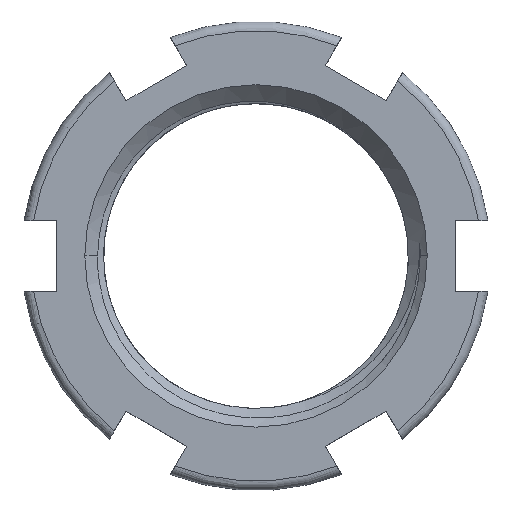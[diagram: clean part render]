
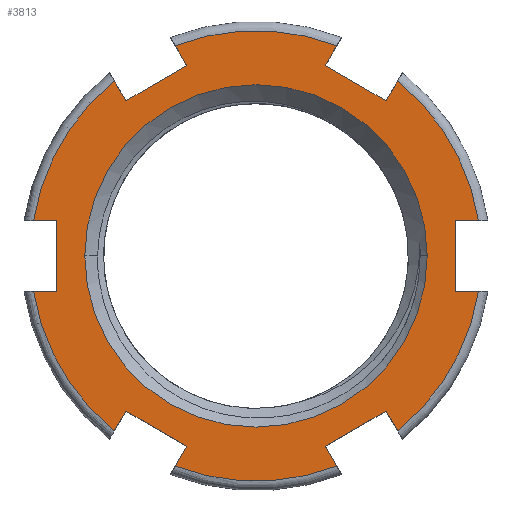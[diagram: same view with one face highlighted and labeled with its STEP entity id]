
A CAD part, top view. The second image highlights one B-rep face of the part: STEP entity #3813.
In plain terms, the highlighted planar face has unit normal (0, 0, 1).
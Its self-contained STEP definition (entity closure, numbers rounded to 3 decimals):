
#1108=CARTESIAN_POINT('',(0.,0.,1.25));
#1109=DIRECTION('',(0.,0.,-1.));
#1110=DIRECTION('',(-1.,0.,0.));
#1111=AXIS2_PLACEMENT_3D('',#1108,#1109,#1110);
#1259=CARTESIAN_POINT('',(0.,0.,1.25));
#1260=DIRECTION('',(0.,0.,-1.));
#1261=DIRECTION('',(1.,0.,0.));
#1262=AXIS2_PLACEMENT_3D('',#1259,#1260,#1261);
#1267=DIRECTION('',(-1.,0.,0.));
#1268=VECTOR('',#1267,0.491);
#1269=CARTESIAN_POINT('',(4.741,0.75,1.25));
#1270=LINE('',#1269,#1268);
#1274=DIRECTION('',(0.,-1.,0.));
#1275=VECTOR('',#1274,1.5);
#1276=CARTESIAN_POINT('',(4.25,0.75,1.25));
#1277=LINE('',#1276,#1275);
#1281=DIRECTION('',(-1.,0.,0.));
#1282=VECTOR('',#1281,0.491);
#1283=CARTESIAN_POINT('',(4.741,-0.75,1.25));
#1284=LINE('',#1283,#1282);
#1288=DIRECTION('',(-0.5,0.866,0.));
#1289=VECTOR('',#1288,0.491);
#1290=CARTESIAN_POINT('',(3.02,-3.731,1.25));
#1291=LINE('',#1290,#1289);
#1295=DIRECTION('',(-0.866,-0.5,0.));
#1296=VECTOR('',#1295,1.5);
#1297=CARTESIAN_POINT('',(2.775,-3.306,1.25));
#1298=LINE('',#1297,#1296);
#1302=DIRECTION('',(0.5,-0.866,0.));
#1303=VECTOR('',#1302,0.491);
#1304=CARTESIAN_POINT('',(1.475,-4.056,1.25));
#1305=LINE('',#1304,#1303);
#1309=DIRECTION('',(0.5,0.866,0.));
#1310=VECTOR('',#1309,0.491);
#1311=CARTESIAN_POINT('',(-1.721,-4.481,1.25));
#1312=LINE('',#1311,#1310);
#1316=DIRECTION('',(-0.866,0.5,0.));
#1317=VECTOR('',#1316,1.5);
#1318=CARTESIAN_POINT('',(-1.475,-4.056,1.25));
#1319=LINE('',#1318,#1317);
#1323=DIRECTION('',(-0.5,-0.866,0.));
#1324=VECTOR('',#1323,0.491);
#1325=CARTESIAN_POINT('',(-2.775,-3.306,1.25));
#1326=LINE('',#1325,#1324);
#1330=DIRECTION('',(1.,0.,0.));
#1331=VECTOR('',#1330,0.491);
#1332=CARTESIAN_POINT('',(-4.741,-0.75,1.25));
#1333=LINE('',#1332,#1331);
#1337=DIRECTION('',(0.,1.,0.));
#1338=VECTOR('',#1337,1.5);
#1339=CARTESIAN_POINT('',(-4.25,-0.75,1.25));
#1340=LINE('',#1339,#1338);
#1344=DIRECTION('',(1.,0.,0.));
#1345=VECTOR('',#1344,0.491);
#1346=CARTESIAN_POINT('',(-4.741,0.75,1.25));
#1347=LINE('',#1346,#1345);
#1351=DIRECTION('',(0.5,-0.866,0.));
#1352=VECTOR('',#1351,0.491);
#1353=CARTESIAN_POINT('',(-3.02,3.731,1.25));
#1354=LINE('',#1353,#1352);
#1358=DIRECTION('',(0.866,0.5,0.));
#1359=VECTOR('',#1358,1.5);
#1360=CARTESIAN_POINT('',(-2.775,3.306,1.25));
#1361=LINE('',#1360,#1359);
#1365=DIRECTION('',(-0.5,0.866,0.));
#1366=VECTOR('',#1365,0.491);
#1367=CARTESIAN_POINT('',(-1.475,4.056,1.25));
#1368=LINE('',#1367,#1366);
#1372=DIRECTION('',(-0.5,-0.866,0.));
#1373=VECTOR('',#1372,0.491);
#1374=CARTESIAN_POINT('',(1.721,4.481,1.25));
#1375=LINE('',#1374,#1373);
#1379=DIRECTION('',(0.866,-0.5,0.));
#1380=VECTOR('',#1379,1.5);
#1381=CARTESIAN_POINT('',(1.475,4.056,1.25));
#1382=LINE('',#1381,#1380);
#1386=DIRECTION('',(0.5,0.866,0.));
#1387=VECTOR('',#1386,0.491);
#1388=CARTESIAN_POINT('',(2.775,3.306,1.25));
#1389=LINE('',#1388,#1387);
#1744=CARTESIAN_POINT('',(0.,0.,1.25));
#1745=DIRECTION('',(0.,0.,1.));
#1746=DIRECTION('',(0.359,0.934,0.));
#1747=AXIS2_PLACEMENT_3D('',#1744,#1745,#1746);
#1786=CARTESIAN_POINT('',(0.,0.,1.25));
#1787=DIRECTION('',(0.,0.,1.));
#1788=DIRECTION('',(-0.629,0.777,0.));
#1789=AXIS2_PLACEMENT_3D('',#1786,#1787,#1788);
#1828=CARTESIAN_POINT('',(0.,0.,1.25));
#1829=DIRECTION('',(0.,0.,1.));
#1830=DIRECTION('',(-0.988,-0.156,0.));
#1831=AXIS2_PLACEMENT_3D('',#1828,#1829,#1830);
#1870=CARTESIAN_POINT('',(0.,0.,1.25));
#1871=DIRECTION('',(0.,0.,1.));
#1872=DIRECTION('',(-0.359,-0.934,0.));
#1873=AXIS2_PLACEMENT_3D('',#1870,#1871,#1872);
#1891=CARTESIAN_POINT('',(0.,0.,1.25));
#1892=DIRECTION('',(0.,0.,1.));
#1893=DIRECTION('',(0.988,0.156,0.));
#1894=AXIS2_PLACEMENT_3D('',#1891,#1892,#1893);
#1954=CARTESIAN_POINT('',(0.,0.,1.25));
#1955=DIRECTION('',(0.,0.,1.));
#1956=DIRECTION('',(0.629,-0.777,0.));
#1957=AXIS2_PLACEMENT_3D('',#1954,#1955,#1956);
#2389=CARTESIAN_POINT('',(1.721,4.481,1.25));
#2390=CARTESIAN_POINT('',(1.475,4.056,1.25));
#2391=VERTEX_POINT('',#2389);
#2392=VERTEX_POINT('',#2390);
#2393=CARTESIAN_POINT('',(2.775,3.306,1.25));
#2394=VERTEX_POINT('',#2393);
#2395=CARTESIAN_POINT('',(3.02,3.731,1.25));
#2396=VERTEX_POINT('',#2395);
#2413=CARTESIAN_POINT('',(3.65,0.,1.25));
#2414=CARTESIAN_POINT('',(-3.65,0.,1.25));
#2415=VERTEX_POINT('',#2413);
#2416=VERTEX_POINT('',#2414);
#2433=CARTESIAN_POINT('',(-3.02,3.731,1.25));
#2434=CARTESIAN_POINT('',(-2.775,3.306,1.25));
#2435=VERTEX_POINT('',#2433);
#2436=VERTEX_POINT('',#2434);
#2437=CARTESIAN_POINT('',(-1.475,4.056,1.25));
#2438=VERTEX_POINT('',#2437);
#2439=CARTESIAN_POINT('',(-1.721,4.481,1.25));
#2440=VERTEX_POINT('',#2439);
#2461=CARTESIAN_POINT('',(-4.741,-0.75,1.25));
#2462=CARTESIAN_POINT('',(-4.25,-0.75,1.25));
#2463=VERTEX_POINT('',#2461);
#2464=VERTEX_POINT('',#2462);
#2465=CARTESIAN_POINT('',(-4.25,0.75,1.25));
#2466=VERTEX_POINT('',#2465);
#2467=CARTESIAN_POINT('',(-4.741,0.75,1.25));
#2468=VERTEX_POINT('',#2467);
#2489=CARTESIAN_POINT('',(-1.721,-4.481,1.25));
#2490=CARTESIAN_POINT('',(-1.475,-4.056,1.25));
#2491=VERTEX_POINT('',#2489);
#2492=VERTEX_POINT('',#2490);
#2493=CARTESIAN_POINT('',(-2.775,-3.306,1.25));
#2494=VERTEX_POINT('',#2493);
#2495=CARTESIAN_POINT('',(-3.02,-3.731,1.25));
#2496=VERTEX_POINT('',#2495);
#2517=CARTESIAN_POINT('',(3.02,-3.731,1.25));
#2518=CARTESIAN_POINT('',(2.775,-3.306,1.25));
#2519=VERTEX_POINT('',#2517);
#2520=VERTEX_POINT('',#2518);
#2521=CARTESIAN_POINT('',(1.475,-4.056,1.25));
#2522=VERTEX_POINT('',#2521);
#2523=CARTESIAN_POINT('',(1.721,-4.481,1.25));
#2524=VERTEX_POINT('',#2523);
#2545=CARTESIAN_POINT('',(4.741,0.75,1.25));
#2546=CARTESIAN_POINT('',(4.25,0.75,1.25));
#2547=VERTEX_POINT('',#2545);
#2548=VERTEX_POINT('',#2546);
#2549=CARTESIAN_POINT('',(4.25,-0.75,1.25));
#2550=VERTEX_POINT('',#2549);
#2551=CARTESIAN_POINT('',(4.741,-0.75,1.25));
#2552=VERTEX_POINT('',#2551);
#3754=CARTESIAN_POINT('',(0.,0.,1.25));
#3755=DIRECTION('',(0.,0.,1.));
#3756=DIRECTION('',(1.,0.,0.));
#3757=AXIS2_PLACEMENT_3D('',#3754,#3755,#3756);
#3758=PLANE('',#3757);
#3760=ORIENTED_EDGE('',*,*,#3759,.T.);
#3762=ORIENTED_EDGE('',*,*,#3761,.T.);
#3764=ORIENTED_EDGE('',*,*,#3763,.F.);
#3766=ORIENTED_EDGE('',*,*,#3765,.F.);
#3768=ORIENTED_EDGE('',*,*,#3767,.T.);
#3770=ORIENTED_EDGE('',*,*,#3769,.T.);
#3772=ORIENTED_EDGE('',*,*,#3771,.T.);
#3774=ORIENTED_EDGE('',*,*,#3773,.F.);
#3776=ORIENTED_EDGE('',*,*,#3775,.T.);
#3778=ORIENTED_EDGE('',*,*,#3777,.T.);
#3780=ORIENTED_EDGE('',*,*,#3779,.T.);
#3782=ORIENTED_EDGE('',*,*,#3781,.F.);
#3784=ORIENTED_EDGE('',*,*,#3783,.T.);
#3786=ORIENTED_EDGE('',*,*,#3785,.T.);
#3788=ORIENTED_EDGE('',*,*,#3787,.F.);
#3790=ORIENTED_EDGE('',*,*,#3789,.F.);
#3792=ORIENTED_EDGE('',*,*,#3791,.T.);
#3794=ORIENTED_EDGE('',*,*,#3793,.T.);
#3796=ORIENTED_EDGE('',*,*,#3795,.T.);
#3798=ORIENTED_EDGE('',*,*,#3797,.F.);
#3800=ORIENTED_EDGE('',*,*,#3799,.T.);
#3802=ORIENTED_EDGE('',*,*,#3801,.T.);
#3804=ORIENTED_EDGE('',*,*,#3803,.T.);
#3806=ORIENTED_EDGE('',*,*,#3805,.F.);
#3807=EDGE_LOOP('',(#3760,#3762,#3764,#3766,#3768,#3770,#3772,#3774,#3776,#3778,
#3780,#3782,#3784,#3786,#3788,#3790,#3792,#3794,#3796,#3798,#3800,#3802,#3804,
#3806));
#3808=FACE_OUTER_BOUND('',#3807,.F.);
#3809=ORIENTED_EDGE('',*,*,#3580,.F.);
#3810=ORIENTED_EDGE('',*,*,#3748,.F.);
#3811=EDGE_LOOP('',(#3809,#3810));
#3812=FACE_BOUND('',#3811,.F.);
#1112=CIRCLE('',#1111,3.65);
#1263=CIRCLE('',#1262,3.65);
#1748=CIRCLE('',#1747,4.8);
#1790=CIRCLE('',#1789,4.8);
#1832=CIRCLE('',#1831,4.8);
#1874=CIRCLE('',#1873,4.8);
#1895=CIRCLE('',#1894,4.8);
#1958=CIRCLE('',#1957,4.8);
#3580=EDGE_CURVE('',#2416,#2415,#1112,.T.);
#3748=EDGE_CURVE('',#2415,#2416,#1263,.T.);
#3759=EDGE_CURVE('',#2547,#2548,#1270,.T.);
#3761=EDGE_CURVE('',#2548,#2550,#1277,.T.);
#3763=EDGE_CURVE('',#2552,#2550,#1284,.T.);
#3765=EDGE_CURVE('',#2519,#2552,#1958,.T.);
#3767=EDGE_CURVE('',#2519,#2520,#1291,.T.);
#3769=EDGE_CURVE('',#2520,#2522,#1298,.T.);
#3771=EDGE_CURVE('',#2522,#2524,#1305,.T.);
#3773=EDGE_CURVE('',#2491,#2524,#1874,.T.);
#3775=EDGE_CURVE('',#2491,#2492,#1312,.T.);
#3777=EDGE_CURVE('',#2492,#2494,#1319,.T.);
#3779=EDGE_CURVE('',#2494,#2496,#1326,.T.);
#3781=EDGE_CURVE('',#2463,#2496,#1832,.T.);
#3783=EDGE_CURVE('',#2463,#2464,#1333,.T.);
#3785=EDGE_CURVE('',#2464,#2466,#1340,.T.);
#3787=EDGE_CURVE('',#2468,#2466,#1347,.T.);
#3789=EDGE_CURVE('',#2435,#2468,#1790,.T.);
#3791=EDGE_CURVE('',#2435,#2436,#1354,.T.);
#3793=EDGE_CURVE('',#2436,#2438,#1361,.T.);
#3795=EDGE_CURVE('',#2438,#2440,#1368,.T.);
#3797=EDGE_CURVE('',#2391,#2440,#1748,.T.);
#3799=EDGE_CURVE('',#2391,#2392,#1375,.T.);
#3801=EDGE_CURVE('',#2392,#2394,#1382,.T.);
#3803=EDGE_CURVE('',#2394,#2396,#1389,.T.);
#3805=EDGE_CURVE('',#2547,#2396,#1895,.T.);
#3813=ADVANCED_FACE('',(#3808,#3812),#3758,.T.);
